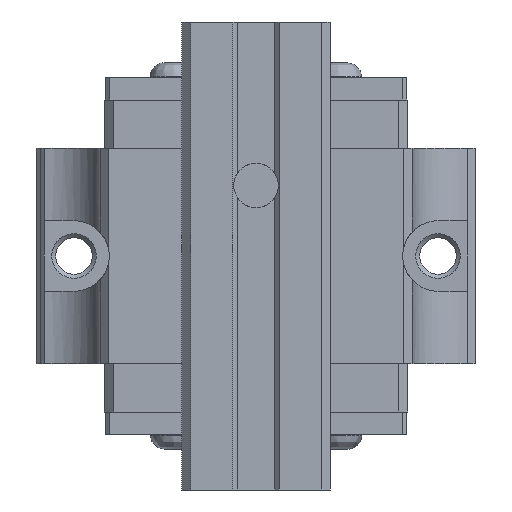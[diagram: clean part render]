
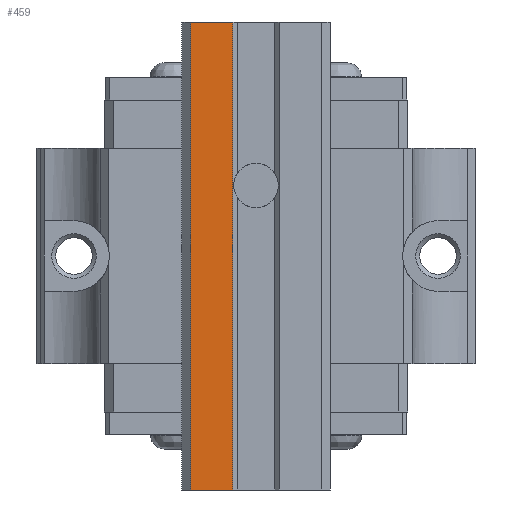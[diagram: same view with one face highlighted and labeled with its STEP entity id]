
A CAD part, front view. The second image highlights one B-rep face of the part: STEP entity #459.
In plain terms, the highlighted planar face has unit normal (0, -1, 0).
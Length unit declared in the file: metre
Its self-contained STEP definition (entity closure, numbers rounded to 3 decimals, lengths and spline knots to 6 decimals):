
#459 = ADVANCED_FACE( '', ( #1121 ), #1122, .F. );
#1121 = FACE_OUTER_BOUND( '', #2057, .T. );
#1122 = PLANE( '', #2058 );
#2057 = EDGE_LOOP( '', ( #3472, #3473, #3474, #3475 ) );
#2058 = AXIS2_PLACEMENT_3D( '', #3476, #3477, #3478 );
#3472 = ORIENTED_EDGE( '', *, *, #5807, .T. );
#3473 = ORIENTED_EDGE( '', *, *, #5654, .F. );
#3474 = ORIENTED_EDGE( '', *, *, #5745, .F. );
#3475 = ORIENTED_EDGE( '', *, *, #5808, .T. );
#3476 = CARTESIAN_POINT( '', ( -0.0031, 0., -0.053 ) );
#3477 = DIRECTION( '', ( 0., 1., 0. ) );
#3478 = DIRECTION( '', ( 1., 0., 0. ) );
#5654 = EDGE_CURVE( '', #6812, #6807, #6814, .T. );
#5745 = EDGE_CURVE( '', #6965, #6812, #6967, .T. );
#5807 = EDGE_CURVE( '', #7067, #6807, #7068, .T. );
#5808 = EDGE_CURVE( '', #6965, #7067, #7069, .T. );
#6807 = VERTEX_POINT( '', #8445 );
#6812 = VERTEX_POINT( '', #8452 );
#6814 = LINE( '', #8455, #8456 );
#6965 = VERTEX_POINT( '', #8670 );
#6967 = LINE( '', #8673, #8674 );
#7067 = VERTEX_POINT( '', #8824 );
#7068 = LINE( '', #8825, #8826 );
#7069 = LINE( '', #8827, #8828 );
#8445 = CARTESIAN_POINT( '', ( -0.0088, 0., 0. ) );
#8452 = CARTESIAN_POINT( '', ( -0.0088, 0., -0.063 ) );
#8455 = CARTESIAN_POINT( '', ( -0.0088, 0., -0.053 ) );
#8456 = VECTOR( '', #10325, 1. );
#8670 = CARTESIAN_POINT( '', ( -0.0031, 0., -0.063 ) );
#8673 = CARTESIAN_POINT( '', ( -0.0031, 0., -0.063 ) );
#8674 = VECTOR( '', #10426, 1. );
#8824 = CARTESIAN_POINT( '', ( -0.0031, 0., 0. ) );
#8825 = CARTESIAN_POINT( '', ( -0.0031, 0., 0. ) );
#8826 = VECTOR( '', #10498, 1. );
#8827 = CARTESIAN_POINT( '', ( -0.0031, 0., -0.053 ) );
#8828 = VECTOR( '', #10499, 1. );
#10325 = DIRECTION( '', ( 0., 0., 1. ) );
#10426 = DIRECTION( '', ( -1., 0., 0. ) );
#10498 = DIRECTION( '', ( -1., 0., 0. ) );
#10499 = DIRECTION( '', ( 0., 0., 1. ) );
